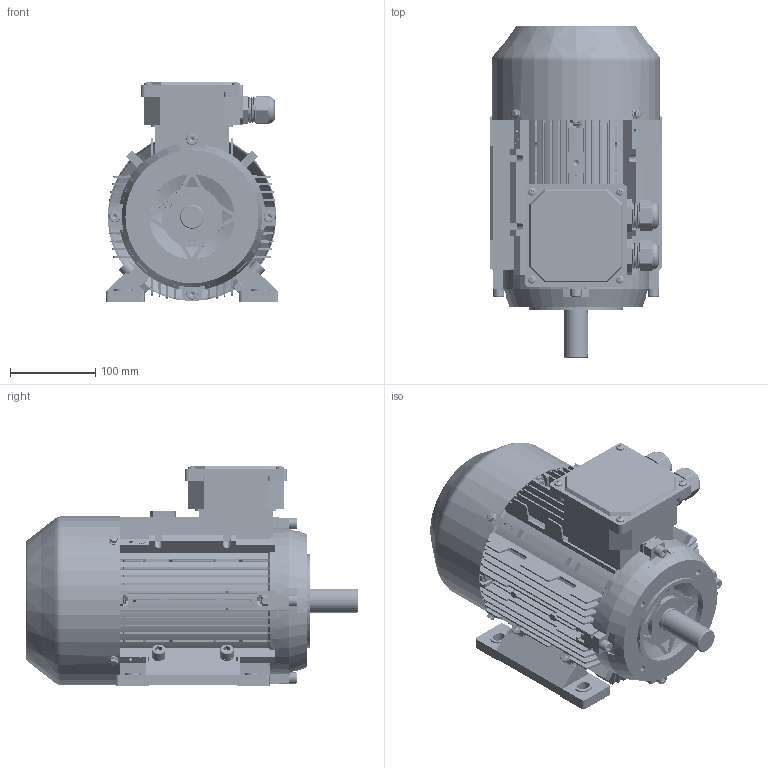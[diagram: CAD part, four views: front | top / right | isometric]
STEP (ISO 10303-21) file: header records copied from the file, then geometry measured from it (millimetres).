
FILE_DESCRIPTION (( 'STEP AP203' ), '1' );
FILE_NAME ('ME3-100B34 3D.STEP', '2024-06-18T07:56:49', ( 'User' ), ( 'China' ), 'SwSTEP 2.0', 'SolidWorks 2018', '' );
FILE_SCHEMA (( 'CONFIG_CONTROL_DESIGN' ));
Length unit declared in the file: millimetre
Products named in the file (24): ME3-100 儂褲; hex nuts, style 2-grades ab gb_GB_HEXAGON_TYPE13 M10 Normal Style-S; M24 蹟杶; ME3-100菁褐; cross recessed pan head screws gb_GB_CROSS_SCREWS_TYPE1 M5X8-8  H type-S; M24 蹟杶簸; ME3-100ヶ傷裔B3; MS112-132諉盄碟裔; hexagon socket head cap screws gb_GB_FASTENER_SCREWS_HSHCS M8X35-S; deep groove ball bearings gb_Rolling bearings 6206 GB 276-94; ME3-100 瑞欶; hex nuts, style 2-grades ab gb_GB_HEXAGON_TYPE13 M8 Normal Style-S; ME3-100转轴（206.5）; hex flange bolts-heavy grade b gb_GB_FASTENER_BOLT_HFBB M5X10-S; wave single coil spring lock washers gb_GB_FASTENER_WASHER_WSLW 8; 蚐猾45X30X7; ME3-100傷裔B14; hexagon socket head cap screws gb_GB_FASTENER_SCREWS_HSHCS M8X25-S; ME 3 100 瑞珔; ME3-100B34  3D; wave single coil spring lock washers gb_GB_FASTENER_WASHER_WSLW 10; circlips for shaft--type b gb_GB_CONNECTING_PIECE_RINGS_CSB 22; hexagon socket head cap screws gb_GB_FASTENER_SCREWS_HSHCS M10X30-S; MS112-132 諉盄碟釱
Assembly tree (63 placements, depth 2):
  ME3-100B34  3D
    ME3-100 儂褲
    ME3-100菁褐  x2
    ME3-100ヶ傷裔B3
    deep groove ball bearings gb_Rolling bearings 6206 GB 276-94  x2
    ME3-100转轴（206.5）
    蚐猾45X30X7
    ME 3 100 瑞珔
    circlips for shaft--type b gb_GB_CONNECTING_PIECE_RINGS_CSB 22
    MS112-132 諉盄碟釱
    M24 蹟杶  x2
    M24 蹟杶簸  x2
    hexagon socket head cap screws gb_GB_FASTENER_SCREWS_HSHCS M8X35-S  x7
    hex nuts, style 2-grades ab gb_GB_HEXAGON_TYPE13 M8 Normal Style-S  x9
    wave single coil spring lock washers gb_GB_FASTENER_WASHER_WSLW 8  x4
    hexagon socket head cap screws gb_GB_FASTENER_SCREWS_HSHCS M8X25-S
    wave single coil spring lock washers gb_GB_FASTENER_WASHER_WSLW 10  x4
    hexagon socket head cap screws gb_GB_FASTENER_SCREWS_HSHCS M10X30-S  x4
    hex nuts, style 2-grades ab gb_GB_HEXAGON_TYPE13 M10 Normal Style-S  x4
    cross recessed pan head screws gb_GB_CROSS_SCREWS_TYPE1 M5X8-8  H type-S  x8
    MS112-132諉盄碟裔
    ME3-100 瑞欶
    hex flange bolts-heavy grade b gb_GB_FASTENER_BOLT_HFBB M5X10-S  x4
    ME3-100傷裔B14
Bounding box: 201.21 x 388.69 x 258 mm (x, y, z)
Volume: 2017738.3 mm3; surface area: 1200027.9 mm2
Topology: 63 solids, 64 shells, 8694 faces, 20568 edges, 11964 vertices
Faces by surface type: cone 3405, cylinder 2648, plane 2245, torus 232, bspline 84, sphere 80
Entity records: 136312 total; most frequent: CARTESIAN_POINT 34912, ORIENTED_EDGE 20760, DIRECTION 20273, EDGE_CURVE 10380, AXIS2_PLACEMENT_3D 7172, VERTEX_POINT 6457, VECTOR 5929, LINE 5929
